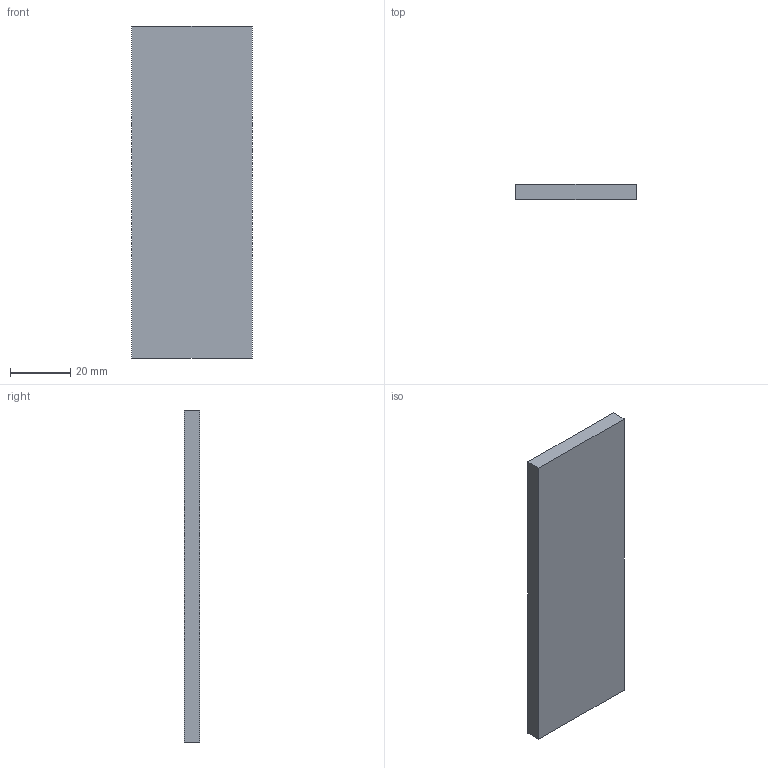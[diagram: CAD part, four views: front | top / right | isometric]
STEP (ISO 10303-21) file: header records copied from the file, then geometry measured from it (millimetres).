
FILE_DESCRIPTION(/* description */ (''),/* implementation_level */ '2;1');
FILE_NAME(/* name */ 'Z:\CAD Files\Development\Workspace\Easter Sale 24\EEH- Plank.stp',/* time_stamp */ '2024-02-29T10:33:24+11:00',/* author */ ('Tyler'),/* organization */ (''),/* preprocessor_version */ 'ST-DEVELOPER v17',/* originating_system */ 'Autodesk Inventor 2019',/* authorisation */ '');
FILE_SCHEMA (('AUTOMOTIVE_DESIGN { 1 0 10303 214 3 1 1 }'));
Length unit declared in the file: millimetre
Products named in the file (1): EEH- Plank
Bounding box: 40 x 5.1 x 110 mm (x, y, z)
Volume: 22440 mm3; surface area: 10330 mm2
Topology: 1 solids, 1 shells, 6 faces, 12 edges, 8 vertices
Faces by surface type: plane 6
Entity records: 208 total; most frequent: CARTESIAN_POINT 27, DIRECTION 26, ORIENTED_EDGE 24, LINE 12, VECTOR 12, EDGE_CURVE 12, VERTEX_POINT 8, STYLED_ITEM 7
